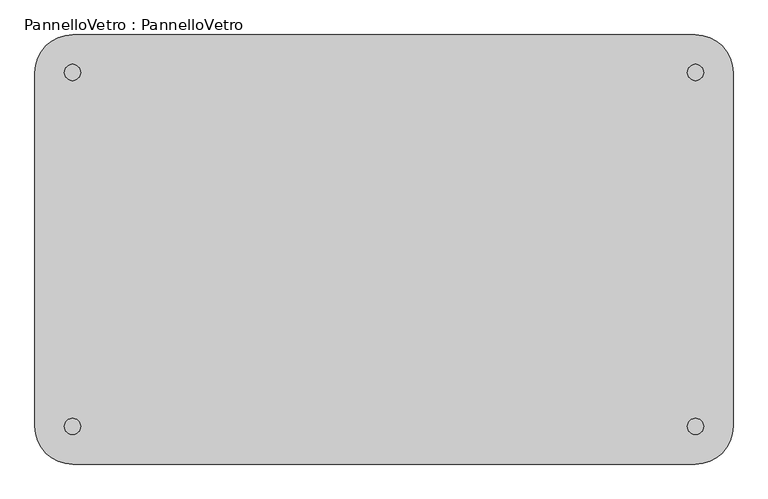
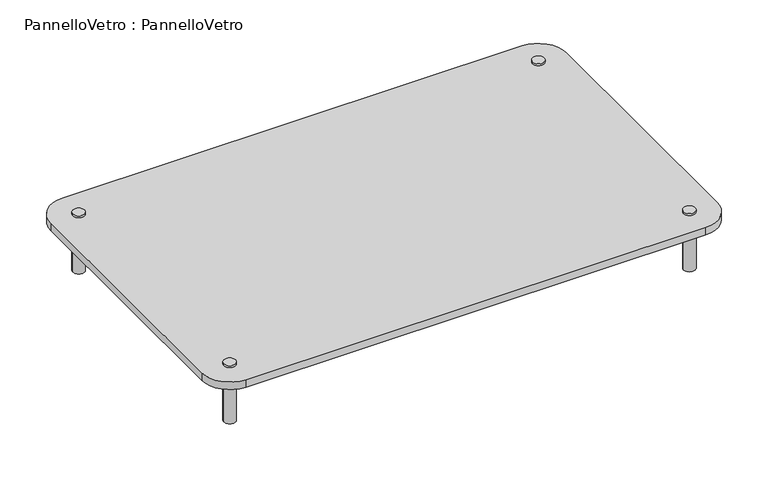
"""IFC4 building model written with IfcOpenShell, lengths in millimetres: furniture geometry, PannelloVetro : PannelloVetro."""

from ifc_helpers import new_model, si_unit, point, frame, frame_2d, origin, place, context, project, spatial, polyline, circle_curve, trimmed, segment, composite_curve, outline, extrude, source, transform, mapped, element, save


def pannellovetro_pannellovetro_4998db3f(model_context):
    return source(origin(), model_context, "Body", "SweptSolid", [
        extrude(outline(composite_curve([segment(trimmed(circle_curve(frame_2d((-580.0, -330.0)), 15.0), [point((-595.0, -330.0))], [point((-565.0, -330.0))], False, "CARTESIAN"), True, "CONTINUOUS"), segment(trimmed(circle_curve(frame_2d((-580.0, -330.0)), 15.0), [point((-565.0, -330.0))], [point((-595.0, -330.0))], False, "CARTESIAN"), True, "CONTINUOUS")], self_intersect=False)), frame((0.0, 0.0, -150.0), z_axis=(0.0, 0.0, 1.0), x_axis=(1.0, 0.0, 0.0)), (0.0, 0.0, 1.0), 155.0),
        extrude(outline(composite_curve([segment(trimmed(circle_curve(frame_2d((580.0, -330.0)), 15.0), [point((565.0, -330.0))], [point((595.0, -330.0))], False, "CARTESIAN"), True, "CONTINUOUS"), segment(trimmed(circle_curve(frame_2d((580.0, -330.0)), 15.0), [point((595.0, -330.0))], [point((565.0, -330.0))], False, "CARTESIAN"), True, "CONTINUOUS")], self_intersect=False)), frame((0.0, 0.0, -150.0), z_axis=(0.0, 0.0, 1.0), x_axis=(1.0, 0.0, 0.0)), (0.0, 0.0, 1.0), 155.0),
        extrude(outline(composite_curve([segment(trimmed(circle_curve(frame_2d((580.0, 330.0)), 15.0), [point((565.0, 330.0))], [point((595.0, 330.0))], False, "CARTESIAN"), True, "CONTINUOUS"), segment(trimmed(circle_curve(frame_2d((580.0, 330.0)), 15.0), [point((595.0, 330.0))], [point((565.0, 330.0))], False, "CARTESIAN"), True, "CONTINUOUS")], self_intersect=False)), frame((0.0, 0.0, -150.0), z_axis=(0.0, 0.0, 1.0), x_axis=(1.0, 0.0, 0.0)), (0.0, 0.0, 1.0), 155.0),
        extrude(outline(composite_curve([segment(trimmed(circle_curve(frame_2d((-580.0, 330.0)), 15.0), [point((-595.0, 330.0))], [point((-565.0, 330.0))], False, "CARTESIAN"), True, "CONTINUOUS"), segment(trimmed(circle_curve(frame_2d((-580.0, 330.0)), 15.0), [point((-565.0, 330.0))], [point((-595.0, 330.0))], False, "CARTESIAN"), True, "CONTINUOUS")], self_intersect=False)), frame((0.0, 0.0, -150.0), z_axis=(0.0, 0.0, 1.0), x_axis=(1.0, 0.0, 0.0)), (0.0, 0.0, 1.0), 155.0),
        extrude(outline(composite_curve([segment(polyline([(-580.0, 400.0), (580.0, 400.0)]), True, "CONTINUOUS"), segment(trimmed(circle_curve(frame_2d((580.0, 330.0)), 70.0), [point((580.0, 400.0))], [point((650.0, 330.0))], False, "CARTESIAN"), True, "CONTINUOUS"), segment(polyline([(650.0, 330.0), (650.0, -330.0)]), True, "CONTINUOUS"), segment(trimmed(circle_curve(frame_2d((580.0, -330.0)), 70.0), [point((650.0, -330.0))], [point((580.0, -400.0))], False, "CARTESIAN"), True, "CONTINUOUS"), segment(polyline([(580.0, -400.0), (-580.0, -400.0)]), True, "CONTINUOUS"), segment(trimmed(circle_curve(frame_2d((-580.0, -330.0)), 70.0), [point((-580.0, -400.0))], [point((-650.0, -330.0))], False, "CARTESIAN"), True, "CONTINUOUS"), segment(polyline([(-650.0, -330.0), (-650.0, 330.0)]), True, "CONTINUOUS"), segment(trimmed(circle_curve(frame_2d((-580.0, 330.0)), 70.0), [point((-650.0, 330.0))], [point((-580.0, 400.0))], False, "CARTESIAN"), True, "CONTINUOUS")], self_intersect=False)), frame((0.0, 0.0, -20.0), z_axis=(0.0, 0.0, 1.0), x_axis=(1.0, 0.0, 0.0)), (0.0, 0.0, 1.0), 20.0),
    ])


if __name__ == "__main__":
    model = new_model("IFC4")
    model_context = context("Model", 3, world=origin())
    ifc_project = project(units=[si_unit("LENGTHUNIT", "METRE", prefix="MILLI")], contexts=[model_context])
    site = spatial("IfcSite", under=ifc_project)
    building = spatial("IfcBuilding", under=site)
    placement = place(None, origin())
    pannellovetro_pannellovetro_shape = pannellovetro_pannellovetro_4998db3f(model_context)
    element("IfcFurniture", 1, ObjectType="PannelloVetro : PannelloVetro", at=placement, inside=building, context=model_context, shape_type="MappedRepresentation", body=[
        mapped(pannellovetro_pannellovetro_shape, transform((0.0, 0.0, 0.0), x_axis=(1.0, 0.0, 0.0), y_axis=(0.0, 1.0, 0.0), z_axis=(0.0, 0.0, 1.0))),
    ])
    save(model, "model.ifc")
